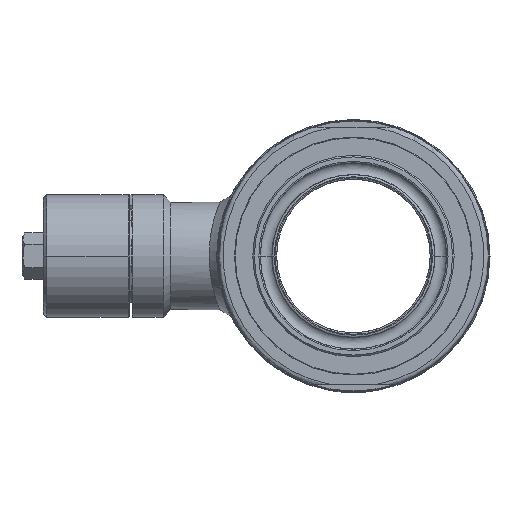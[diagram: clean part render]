
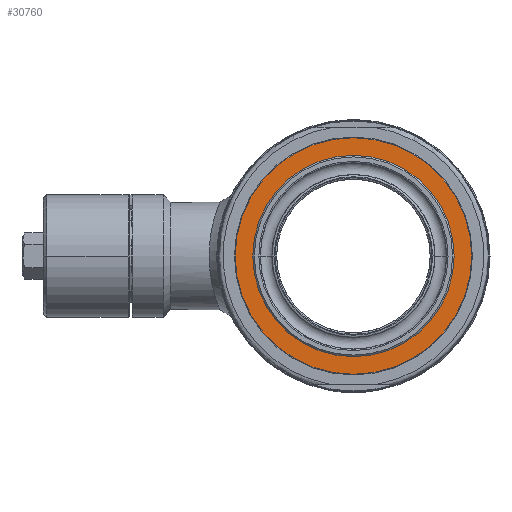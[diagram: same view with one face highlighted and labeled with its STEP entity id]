
A CAD part, left-side view. The second image highlights one B-rep face of the part: STEP entity #30760.
In plain terms, the highlighted planar face has unit normal (-1, 0, 0).
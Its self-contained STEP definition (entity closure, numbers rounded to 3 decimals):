
#2377=CARTESIAN_POINT('',(-66.2,0.,0.));
#2378=DIRECTION('',(1.,0.,0.));
#2379=DIRECTION('',(0.,-1.,0.));
#2380=AXIS2_PLACEMENT_3D('',#2377,#2378,#2379);
#2385=CARTESIAN_POINT('',(-66.2,0.,0.));
#2386=DIRECTION('',(1.,0.,0.));
#2387=DIRECTION('',(0.,1.,0.));
#2388=AXIS2_PLACEMENT_3D('',#2385,#2386,#2387);
#2393=CARTESIAN_POINT('',(-66.2,0.,0.));
#2394=DIRECTION('',(1.,0.,0.));
#2395=DIRECTION('',(0.,-1.,0.));
#2396=AXIS2_PLACEMENT_3D('',#2393,#2394,#2395);
#2401=CARTESIAN_POINT('',(-66.2,0.,0.));
#2402=DIRECTION('',(-1.,0.,0.));
#2403=DIRECTION('',(0.,-1.,0.));
#2404=AXIS2_PLACEMENT_3D('',#2401,#2402,#2403);
#28101=CARTESIAN_POINT('',(-66.2,-32.8,0.));
#28102=CARTESIAN_POINT('',(-66.2,32.8,0.));
#28103=VERTEX_POINT('',#28101);
#28104=VERTEX_POINT('',#28102);
#28133=CARTESIAN_POINT('',(-66.2,-38.55,0.));
#28134=CARTESIAN_POINT('',(-66.2,38.55,0.));
#28135=VERTEX_POINT('',#28133);
#28136=VERTEX_POINT('',#28134);
#30745=CARTESIAN_POINT('',(-66.2,0.,0.));
#30746=DIRECTION('',(-1.,0.,0.));
#30747=DIRECTION('',(0.,1.,0.));
#30748=AXIS2_PLACEMENT_3D('',#30745,#30746,#30747);
#30749=PLANE('',#30748);
#30750=ORIENTED_EDGE('',*,*,#30727,.T.);
#30751=ORIENTED_EDGE('',*,*,#30712,.T.);
#30752=EDGE_LOOP('',(#30750,#30751));
#30753=FACE_OUTER_BOUND('',#30752,.F.);
#30755=ORIENTED_EDGE('',*,*,#30754,.F.);
#30757=ORIENTED_EDGE('',*,*,#30756,.T.);
#30758=EDGE_LOOP('',(#30755,#30757));
#30759=FACE_BOUND('',#30758,.F.);
#30760=ADVANCED_FACE('',(#30753,#30759),#30749,.T.);
#2381=CIRCLE('',#2380,38.55);
#2389=CIRCLE('',#2388,38.55);
#2397=CIRCLE('',#2396,32.8);
#2405=CIRCLE('',#2404,32.8);
#30712=EDGE_CURVE('',#28136,#28135,#2389,.T.);
#30727=EDGE_CURVE('',#28135,#28136,#2381,.T.);
#30754=EDGE_CURVE('',#28103,#28104,#2397,.T.);
#30756=EDGE_CURVE('',#28103,#28104,#2405,.T.);
